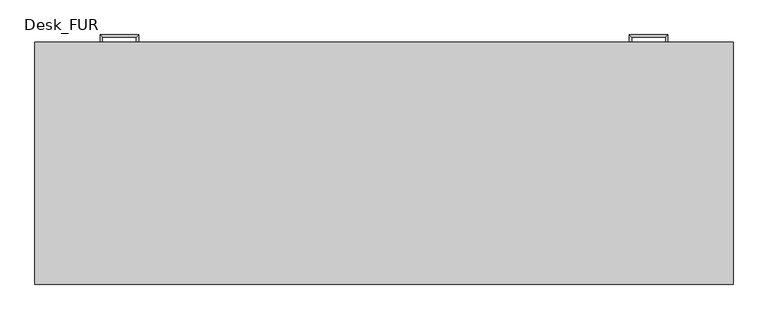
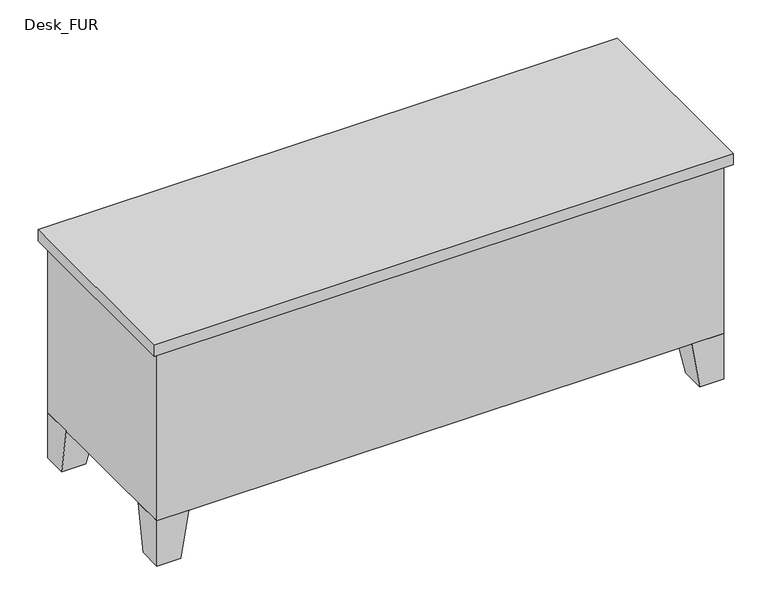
"""IFC4 building model written with IfcOpenShell, lengths in millimetres: furniture geometry, Desk_FUR : 1800 x 600  mm 2."""

from ifc_helpers import new_model, si_unit, frame, origin, place, context, project, spatial, polyline, outline, extrude, faceted_brep, source, transform, mapped, element, save


def desk_fur_fd993f29(model_context):
    return source(origin(), model_context, "Body", "SolidModel", [
        extrude(outline(polyline([(-118.95, -81.0), (-118.95, -68.3), (249.35, -68.3), (249.35, -81.0), (-118.95, -81.0)])), frame((0.0, 0.0, 603.25), z_axis=(0.0, 0.0, 1.0), x_axis=(1.0, 0.0, 0.0)), (0.0, 0.0, 1.0), 101.6),
        extrude(outline(polyline([(-118.95, -81.0), (-118.95, -68.3), (249.35, -68.3), (249.35, -81.0), (-118.95, -81.0)])), frame((0.0, 0.0, 171.05), z_axis=(0.0, 0.0, 1.0), x_axis=(1.0, 0.0, 0.0)), (0.0, 0.0, 1.0), 413.15),
        extrude(outline(polyline([(1274.65, -81.0), (1274.65, -68.3), (1642.95, -68.3), (1642.95, -81.0), (1274.65, -81.0)])), frame((0.0, 0.0, 602.85), z_axis=(0.0, 0.0, 1.0), x_axis=(1.0, 0.0, 0.0)), (0.0, 0.0, 1.0), 102.0),
        extrude(outline(polyline([(1274.65, -81.0), (1274.65, -68.3), (1642.95, -68.3), (1642.95, -81.0), (1274.65, -81.0)])), frame((0.0, 0.0, 171.05), z_axis=(0.0, 0.0, 1.0), x_axis=(1.0, 0.0, 0.0)), (0.0, 0.0, 1.0), 171.45),
        extrude(outline(polyline([(1274.65, -81.0), (1274.65, -68.3), (1642.95, -68.3), (1642.95, -81.0), (1274.65, -81.0)])), frame((0.0, 0.0, 482.2), z_axis=(0.0, 0.0, 1.0), x_axis=(1.0, 0.0, 0.0)), (0.0, 0.0, 1.0), 101.6),
        extrude(outline(polyline([(1274.65, -81.0), (1274.65, -68.3), (1642.95, -68.3), (1642.95, -81.0), (1274.65, -81.0)])), frame((0.0, 0.0, 361.55), z_axis=(0.0, 0.0, 1.0), x_axis=(1.0, 0.0, 0.0)), (0.0, 0.0, 1.0), 101.6),
        faceted_brep([(-36.4, -81.0, 152.0), (-138.0, -81.0, 152.0), (-138.0, -182.6, 152.0), (-36.4, -182.6, 152.0), (-61.8, -81.0, 0.0), (-61.8, -157.2, 0.0), (-138.0, -157.2, 0.0), (-138.0, -81.0, 0.0)], [[[0, 1, 2, 3]], [[4, 5, 6, 7]], [[4, 0, 3, 5]], [[5, 3, 2, 6]], [[6, 2, 1, 7]], [[7, 1, 0, 4]]]),
        faceted_brep([(-36.4, -681.0, 152.0), (-36.4, -579.4, 152.0), (-138.0, -579.4, 152.0), (-138.0, -681.0, 152.0), (-61.8, -681.0, 0.0), (-138.0, -681.0, 0.0), (-138.0, -604.8, 0.0), (-61.8, -604.8, 0.0)], [[[0, 1, 2, 3]], [[4, 5, 6, 7]], [[4, 0, 3, 5]], [[5, 3, 2, 6]], [[6, 2, 1, 7]], [[7, 1, 0, 4]]]),
        faceted_brep([(1560.4, -681.0, 152.0), (1662.0, -681.0, 152.0), (1662.0, -579.4, 152.0), (1560.4, -579.4, 152.0), (1585.8, -681.0, 0.0), (1585.8, -604.8, 0.0), (1662.0, -604.8, 0.0), (1662.0, -681.0, 0.0)], [[[0, 1, 2, 3]], [[4, 5, 6, 7]], [[4, 0, 3, 5]], [[5, 3, 2, 6]], [[6, 2, 1, 7]], [[7, 1, 0, 4]]]),
        faceted_brep([(1560.4, -81.0, 152.0), (1560.4, -182.6, 152.0), (1662.0, -182.6, 152.0), (1662.0, -81.0, 152.0), (1585.8, -81.0, 0.0), (1662.0, -81.0, 0.0), (1662.0, -157.2, 0.0), (1585.8, -157.2, 0.0)], [[[0, 1, 2, 3]], [[4, 5, 6, 7]], [[4, 0, 3, 5]], [[5, 3, 2, 6]], [[6, 2, 1, 7]], [[7, 1, 0, 4]]]),
        extrude(outline(polyline([(-157.05, -61.95), (1681.05, -61.95), (1681.05, -700.05), (-157.05, -700.05), (-157.05, -61.95)])), frame((0.0, 0.0, 723.9), z_axis=(0.0, 0.0, 1.0), x_axis=(1.0, 0.0, 0.0)), (0.0, 0.0, 1.0), 38.1),
        extrude(outline(polyline([(1255.6, -81.0), (1662.0, -81.0), (1662.0, -681.0), (-138.0, -681.0), (-138.0, -81.0), (268.4, -81.0), (268.4, -554.0), (1255.6, -554.0), (1255.6, -81.0)])), frame((0.0, 0.0, 152.0), z_axis=(0.0, 0.0, 1.0), x_axis=(1.0, 0.0, 0.0)), (0.0, 0.0, 1.0), 571.9),
        faceted_brep([(20.75, -68.3, 546.1), (14.4, -68.3, 546.1), (14.4, -68.3, 533.4), (20.75, -68.3, 533.4), (20.75, -49.25, 533.4), (20.75, -49.25, 546.1), (14.4, -42.9, 533.4), (14.4, -42.9, 546.1), (109.65, -49.25, 533.4), (109.65, -49.25, 546.1), (116.0, -42.9, 533.4), (116.0, -42.9, 546.1), (109.65, -68.3, 546.1), (109.65, -68.3, 533.4), (116.0, -68.3, 533.4), (116.0, -68.3, 546.1)], [[[0, 1, 2, 3]], [[3, 4, 5, 0]], [[2, 6, 4, 3]], [[1, 7, 6, 2]], [[0, 5, 7, 1]], [[4, 8, 9, 5]], [[6, 10, 8, 4]], [[7, 11, 10, 6]], [[5, 9, 11, 7]], [[12, 13, 14, 15]], [[8, 13, 12, 9]], [[10, 14, 13, 8]], [[11, 15, 14, 10]], [[9, 12, 15, 11]]]),
        faceted_brep([(20.75, -68.3, 666.75), (14.4, -68.3, 666.75), (14.4, -68.3, 654.05), (20.75, -68.3, 654.05), (20.75, -49.25, 654.05), (20.75, -49.25, 666.75), (14.4, -42.9, 654.05), (14.4, -42.9, 666.75), (109.65, -49.25, 654.05), (109.65, -49.25, 666.75), (116.0, -42.9, 654.05), (116.0, -42.9, 666.75), (109.65, -68.3, 666.75), (109.65, -68.3, 654.05), (116.0, -68.3, 654.05), (116.0, -68.3, 666.75)], [[[0, 1, 2, 3]], [[3, 4, 5, 0]], [[2, 6, 4, 3]], [[1, 7, 6, 2]], [[0, 5, 7, 1]], [[4, 8, 9, 5]], [[6, 10, 8, 4]], [[7, 11, 10, 6]], [[5, 9, 11, 7]], [[12, 13, 14, 15]], [[8, 13, 12, 9]], [[10, 14, 13, 8]], [[11, 15, 14, 10]], [[9, 12, 15, 11]]]),
        faceted_brep([(1503.25, -68.3, 304.8), (1503.25, -68.3, 292.1), (1509.6, -68.3, 292.1), (1509.6, -68.3, 304.8), (1509.6, -42.9, 304.8), (1503.25, -49.25, 304.8), (1509.6, -42.9, 292.1), (1503.25, -49.25, 292.1), (1408.0, -42.9, 304.8), (1414.35, -49.25, 304.8), (1408.0, -42.9, 292.1), (1414.35, -49.25, 292.1), (1414.35, -68.3, 304.8), (1408.0, -68.3, 304.8), (1408.0, -68.3, 292.1), (1414.35, -68.3, 292.1)], [[[0, 1, 2, 3]], [[3, 4, 5, 0]], [[2, 6, 4, 3]], [[1, 7, 6, 2]], [[0, 5, 7, 1]], [[4, 8, 9, 5]], [[6, 10, 8, 4]], [[7, 11, 10, 6]], [[5, 9, 11, 7]], [[12, 13, 14, 15]], [[8, 13, 12, 9]], [[10, 14, 13, 8]], [[11, 15, 14, 10]], [[9, 12, 15, 11]]]),
        faceted_brep([(1503.25, -68.3, 425.45), (1503.25, -68.3, 412.75), (1509.6, -68.3, 412.75), (1509.6, -68.3, 425.45), (1509.6, -42.9, 425.45), (1503.25, -49.25, 425.45), (1509.6, -42.9, 412.75), (1503.25, -49.25, 412.75), (1408.0, -42.9, 425.45), (1414.35, -49.25, 425.45), (1408.0, -42.9, 412.75), (1414.35, -49.25, 412.75), (1414.35, -68.3, 425.45), (1408.0, -68.3, 425.45), (1408.0, -68.3, 412.75), (1414.35, -68.3, 412.75)], [[[0, 1, 2, 3]], [[3, 4, 5, 0]], [[2, 6, 4, 3]], [[1, 7, 6, 2]], [[0, 5, 7, 1]], [[4, 8, 9, 5]], [[6, 10, 8, 4]], [[7, 11, 10, 6]], [[5, 9, 11, 7]], [[12, 13, 14, 15]], [[8, 13, 12, 9]], [[10, 14, 13, 8]], [[11, 15, 14, 10]], [[9, 12, 15, 11]]]),
        faceted_brep([(1503.25, -68.3, 546.1), (1503.25, -68.3, 533.4), (1509.6, -68.3, 533.4), (1509.6, -68.3, 546.1), (1509.6, -42.9, 546.1), (1503.25, -49.25, 546.1), (1509.6, -42.9, 533.4), (1503.25, -49.25, 533.4), (1408.0, -42.9, 546.1), (1414.35, -49.25, 546.1), (1408.0, -42.9, 533.4), (1414.35, -49.25, 533.4), (1414.35, -68.3, 546.1), (1408.0, -68.3, 546.1), (1408.0, -68.3, 533.4), (1414.35, -68.3, 533.4)], [[[0, 1, 2, 3]], [[3, 4, 5, 0]], [[2, 6, 4, 3]], [[1, 7, 6, 2]], [[0, 5, 7, 1]], [[4, 8, 9, 5]], [[6, 10, 8, 4]], [[7, 11, 10, 6]], [[5, 9, 11, 7]], [[12, 13, 14, 15]], [[8, 13, 12, 9]], [[10, 14, 13, 8]], [[11, 15, 14, 10]], [[9, 12, 15, 11]]]),
        faceted_brep([(1503.25, -68.3, 666.75), (1503.25, -68.3, 654.05), (1509.6, -68.3, 654.05), (1509.6, -68.3, 666.75), (1509.6, -42.9, 666.75), (1503.25, -49.25, 666.75), (1509.6, -42.9, 654.05), (1503.25, -49.25, 654.05), (1408.0, -42.9, 666.75), (1414.35, -49.25, 666.75), (1408.0, -42.9, 654.05), (1414.35, -49.25, 654.05), (1414.35, -68.3, 666.75), (1408.0, -68.3, 666.75), (1408.0, -68.3, 654.05), (1414.35, -68.3, 654.05)], [[[0, 1, 2, 3]], [[3, 4, 5, 0]], [[2, 6, 4, 3]], [[1, 7, 6, 2]], [[0, 5, 7, 1]], [[4, 8, 9, 5]], [[6, 10, 8, 4]], [[7, 11, 10, 6]], [[5, 9, 11, 7]], [[12, 13, 14, 15]], [[8, 13, 12, 9]], [[10, 14, 13, 8]], [[11, 15, 14, 10]], [[9, 12, 15, 11]]]),
    ])


if __name__ == "__main__":
    model = new_model("IFC4")
    model_context = context("Model", 3, world=origin())
    ifc_project = project(units=[si_unit("LENGTHUNIT", "METRE", prefix="MILLI")], contexts=[model_context])
    site = spatial("IfcSite", under=ifc_project)
    building = spatial("IfcBuilding", under=site)
    placement = place(None, origin())
    desk_fur_shape = desk_fur_fd993f29(model_context)
    element("IfcFurniture", 1, ObjectType="Desk_FUR : 1800 x 600  mm 2", at=placement, inside=building, context=model_context, shape_type="MappedRepresentation", body=[
        mapped(desk_fur_shape, transform((0.0, 0.0, 0.0), x_axis=(1.0, 0.0, 0.0), y_axis=(0.0, 1.0, 0.0), z_axis=(0.0, 0.0, 1.0))),
    ])
    save(model, "model.ifc")
